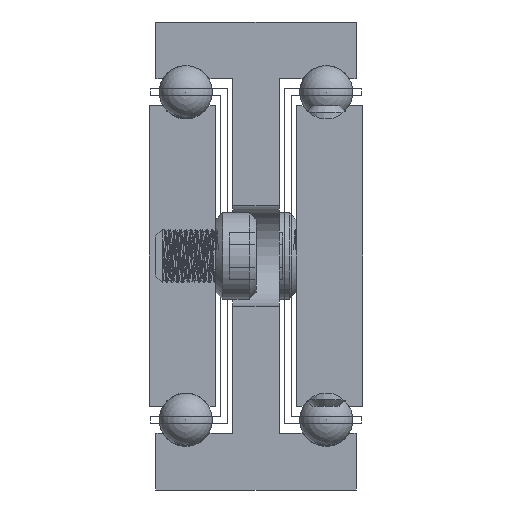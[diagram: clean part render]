
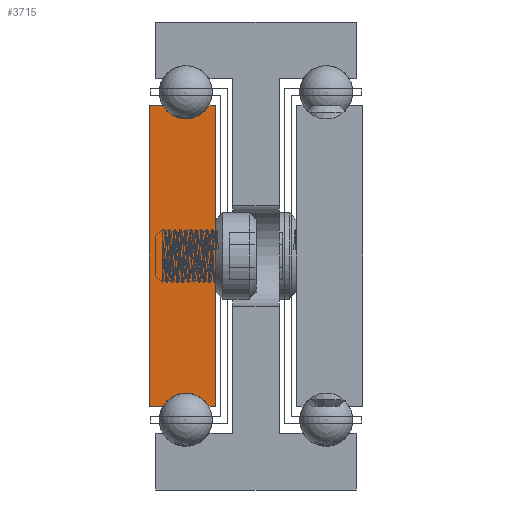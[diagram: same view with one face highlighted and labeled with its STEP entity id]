
A CAD part, front view. The second image highlights one B-rep face of the part: STEP entity #3715.
In plain terms, the highlighted planar face has unit normal (0, -1, 0).
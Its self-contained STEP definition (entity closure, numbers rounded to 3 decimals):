
#489=CIRCLE('',#4010,4.);
#491=CIRCLE('',#4016,4.);
#803=FACE_OUTER_BOUND('',#1039,.T.);
#1039=EDGE_LOOP('',(#2990,#2991,#2992,#2993,#2994,#2995,#2996,#2997));
#1428=LINE('',#5748,#1640);
#1431=LINE('',#5754,#1643);
#1435=LINE('',#5766,#1647);
#1438=LINE('',#5772,#1650);
#1441=LINE('',#5778,#1653);
#1445=LINE('',#5788,#1657);
#1640=VECTOR('',#4618,1.);
#1643=VECTOR('',#4623,1.);
#1647=VECTOR('',#4635,1.);
#1650=VECTOR('',#4640,1.);
#1653=VECTOR('',#4645,1.);
#1657=VECTOR('',#4657,1.);
#1860=VERTEX_POINT('',#5745);
#1861=VERTEX_POINT('',#5747);
#1863=VERTEX_POINT('',#5753);
#1865=VERTEX_POINT('',#5759);
#1867=VERTEX_POINT('',#5765);
#1869=VERTEX_POINT('',#5771);
#1871=VERTEX_POINT('',#5777);
#1873=VERTEX_POINT('',#5783);
#2350=EDGE_CURVE('',#1861,#1860,#1428,.T.);
#2353=EDGE_CURVE('',#1863,#1861,#1431,.T.);
#2356=EDGE_CURVE('',#1865,#1863,#489,.T.);
#2359=EDGE_CURVE('',#1867,#1865,#1435,.T.);
#2362=EDGE_CURVE('',#1869,#1867,#1438,.T.);
#2365=EDGE_CURVE('',#1871,#1869,#1441,.T.);
#2368=EDGE_CURVE('',#1873,#1871,#491,.T.);
#2371=EDGE_CURVE('',#1860,#1873,#1445,.T.);
#2990=ORIENTED_EDGE('',*,*,#2371,.T.);
#2991=ORIENTED_EDGE('',*,*,#2368,.T.);
#2992=ORIENTED_EDGE('',*,*,#2365,.T.);
#2993=ORIENTED_EDGE('',*,*,#2362,.T.);
#2994=ORIENTED_EDGE('',*,*,#2359,.T.);
#2995=ORIENTED_EDGE('',*,*,#2356,.T.);
#2996=ORIENTED_EDGE('',*,*,#2353,.T.);
#2997=ORIENTED_EDGE('',*,*,#2350,.T.);
#3609=PLANE('',#4019);
#3715=ADVANCED_FACE('',(#803),#3609,.T.);
#4010=AXIS2_PLACEMENT_3D('',#5760,#4629,#4630);
#4016=AXIS2_PLACEMENT_3D('',#5784,#4651,#4652);
#4019=AXIS2_PLACEMENT_3D('',#5790,#4660,#4661);
#4618=DIRECTION('',(0.,0.,-1.));
#4623=DIRECTION('',(-1.,0.,0.));
#4629=DIRECTION('center_axis',(0.,1.,0.));
#4630=DIRECTION('ref_axis',(-0.866,0.,-0.5));
#4635=DIRECTION('',(-1.,0.,0.));
#4640=DIRECTION('',(0.,0.,1.));
#4645=DIRECTION('',(1.,0.,0.));
#4651=DIRECTION('center_axis',(0.,1.,0.));
#4652=DIRECTION('ref_axis',(0.866,0.,0.5));
#4657=DIRECTION('',(1.,0.,0.));
#4660=DIRECTION('center_axis',(0.,-1.,0.));
#4661=DIRECTION('ref_axis',(1.,0.,0.));
#5745=CARTESIAN_POINT('',(-7910.39,-1482.25,677.5));
#5747=CARTESIAN_POINT('',(-7910.39,-1482.25,722.5));
#5748=CARTESIAN_POINT('',(-7910.39,-1482.25,677.5));
#5753=CARTESIAN_POINT('',(-7908.354,-1482.25,722.5));
#5754=CARTESIAN_POINT('',(-7910.39,-1482.25,722.5));
#5759=CARTESIAN_POINT('',(-7901.426,-1482.25,722.5));
#5760=CARTESIAN_POINT('Origin',(-7904.89,-1482.25,724.5));
#5765=CARTESIAN_POINT('',(-7900.39,-1482.25,722.5));
#5766=CARTESIAN_POINT('',(-7901.426,-1482.25,722.5));
#5771=CARTESIAN_POINT('',(-7900.39,-1482.25,677.5));
#5772=CARTESIAN_POINT('',(-7900.39,-1482.25,722.5));
#5777=CARTESIAN_POINT('',(-7901.426,-1482.25,677.5));
#5778=CARTESIAN_POINT('',(-7900.39,-1482.25,677.5));
#5783=CARTESIAN_POINT('',(-7908.354,-1482.25,677.5));
#5784=CARTESIAN_POINT('Origin',(-7904.89,-1482.25,675.5));
#5788=CARTESIAN_POINT('',(-7908.354,-1482.25,677.5));
#5790=CARTESIAN_POINT('Origin',(-7905.396,-1482.25,700.));
